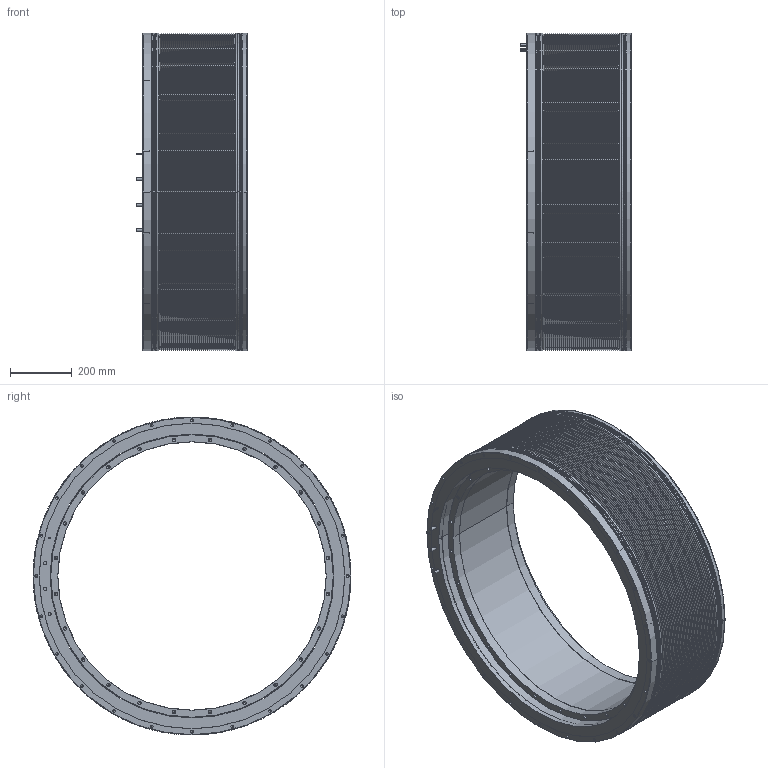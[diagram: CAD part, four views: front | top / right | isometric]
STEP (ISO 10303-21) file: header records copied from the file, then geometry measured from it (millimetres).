
FILE_DESCRIPTION((''),'2;1');
FILE_NAME('TK1030-250','2017-10-30T',('stefanos'),(''),'CREO PARAMETRIC BY PTC INC, 2015480','CREO PARAMETRIC BY PTC INC, 2015480','');
FILE_SCHEMA(('CONFIG_CONTROL_DESIGN'));
Length unit declared in the file: millimetre
Products named in the file (1): TK1030-250
Bounding box: 358 x 1030 x 1030 mm (x, y, z)
Volume: 72852747.3 mm3; surface area: 8337294.6 mm2
Topology: 9 solids, 9 shells, 679 faces, 1502 edges, 788 vertices
Faces by surface type: cone 316, cylinder 294, plane 37, torus 16, revolution 16
Entity records: 18982 total; most frequent: CARTESIAN_POINT 4361, DIRECTION 3384, ORIENTED_EDGE 2716, AXIS2_PLACEMENT_3D 1379, EDGE_CURVE 1358, VERTEX_POINT 788, EDGE_LOOP 788, CIRCLE 716
